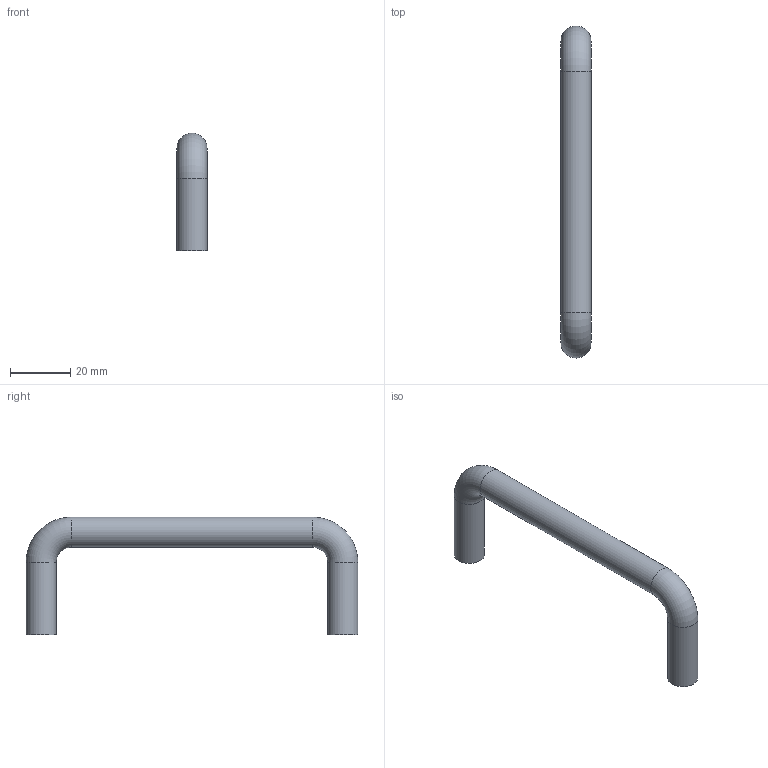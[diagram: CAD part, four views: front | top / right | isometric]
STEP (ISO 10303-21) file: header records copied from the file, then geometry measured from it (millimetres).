
FILE_DESCRIPTION(/* description */ (''),/* implementation_level */ '2;1');
FILE_NAME(/* name */ '\\SYNOLOGYNAS\web\db2\A-GS10-100-316\A-GS10-100-316.stp',/* time_stamp */ '2026-09-19T13:46:23+09:00',/* author */ ('user'),/* organization */ (''),/* preprocessor_version */ 'ST-DEVELOPER v15.6',/* originating_system */ 'Autodesk Inventor 2015',/* authorisation */ '');
FILE_SCHEMA (('AUTOMOTIVE_DESIGN { 1 0 10303 214 3 1 1 }'));
Length unit declared in the file: millimetre
Products named in the file (1): A-GS10-100-316
Bounding box: 10 x 110 x 39 mm (x, y, z)
Volume: 11917.3 mm3; surface area: 5545.7 mm2
Topology: 1 solids, 1 shells, 13 faces, 29 edges, 18 vertices
Faces by surface type: cylinder 5, cone 4, plane 2, torus 2
Full cylindrical faces by diameter (mm): 6 x2, 10 x3
Entity records: 285 total; most frequent: DIRECTION 52, CARTESIAN_POINT 38, AXIS2_PLACEMENT_3D 26, EDGE_LOOP 24, ORIENTED_EDGE 24, FACE_OUTER_BOUND 13, ADVANCED_FACE 13, CIRCLE 12
